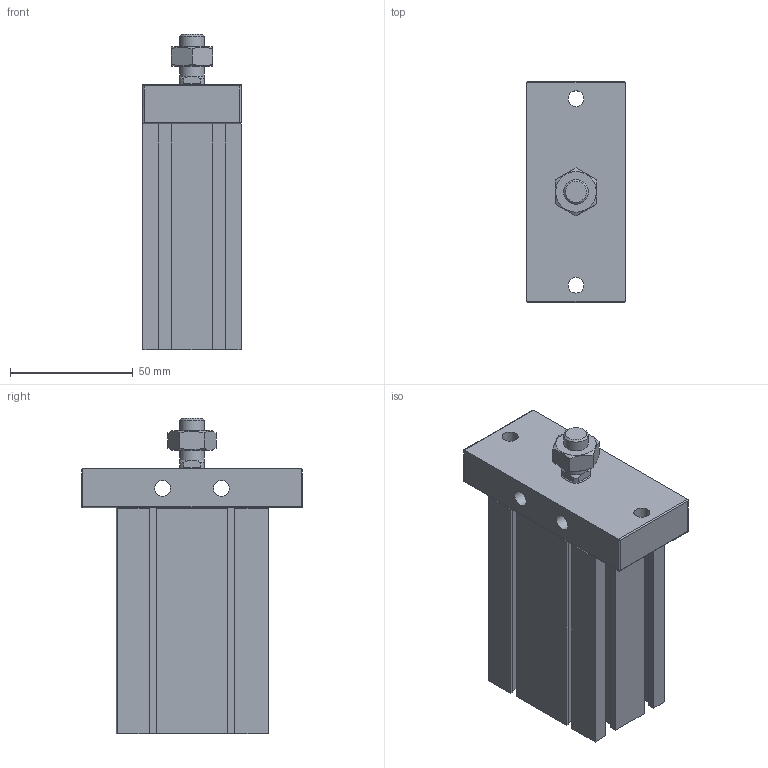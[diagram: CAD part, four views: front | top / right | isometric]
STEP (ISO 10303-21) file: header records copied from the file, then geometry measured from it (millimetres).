
FILE_DESCRIPTION((''),'2;1');
FILE_NAME('J:\3D電子目錄\氣缸\ND\ND\ND32-FB\ND32x60-FB.stp','2008-03-13T08:23:34',('66-2f-008'),(''),'Autodesk Inventor 11','Autodesk Inventor 11','');
FILE_SCHEMA(('AUTOMOTIVE_DESIGN { 1 0 10303 214 1 1 1 1 }'));
Length unit declared in the file: millimetre
Products named in the file (1): ND32-FB
Bounding box: 40 x 90 x 128.5 mm (x, y, z)
Volume: 259156.8 mm3; surface area: 45325.8 mm2
Topology: 2 solids, 2 shells, 154 faces, 393 edges, 252 vertices
Faces by surface type: plane 99, cylinder 23, cone 15, bspline 14, sphere 2, torus 1
Full cylindrical faces by diameter (mm): 2.2 x2, 6.5 x2, 10 x2, 23 x1, 34 x1, 36 x1
Entity records: 4540 total; most frequent: CARTESIAN_POINT 979, ORIENTED_EDGE 710, DIRECTION 702, EDGE_CURVE 355, VECTOR 250, LINE 250, VERTEX_POINT 247, AXIS2_PLACEMENT_3D 226
